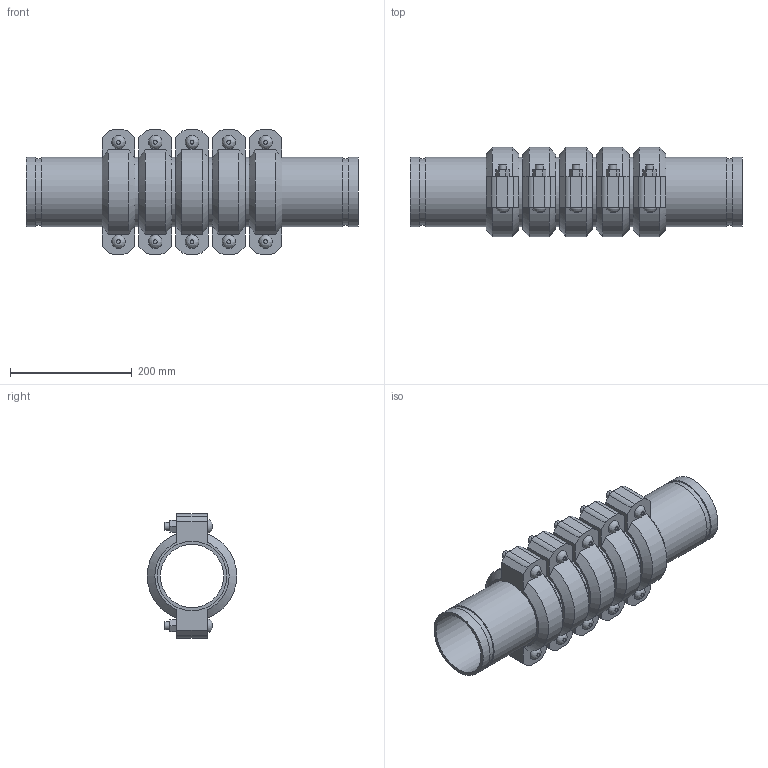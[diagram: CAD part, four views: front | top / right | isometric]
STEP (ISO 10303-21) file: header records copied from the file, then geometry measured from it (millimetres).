
FILE_DESCRIPTION(/* description */ ('VIC SS EXPANSION JOINT 5 COUPLINGS COMPRESSED STYLE 155P (OGS) (POTABLE WATER) ','CAx-IF Rec.Pracs.---Representation and Presentation of Product Manufacturing Information (PMI)---4.0---2014-10-13'),/* implementation_level */ '2;1');
FILE_NAME(/* name */ 'C:\Users\kkamble\AppData\Roaming\Autodesk\ApplicationPlugins\Victaulic.Temp\A410\Victaulic_SS_Expansion Joint_Compressed_5 Couplings_Style 155P (OGS)-Potable Water_5 Coup_Comp_4 (100).stp',/* time_stamp */ '2021-07-16T17:13:25+06:00',/* author */ ('kkamble'),/* organization */ ('Victaulic'),/* preprocessor_version */ 'ST-DEVELOPER v17.2',/* originating_system */ 'Autodesk Inventor 2019',/* authorisation */ '');
FILE_SCHEMA (('AP242_MANAGED_MODEL_BASED_3D_ENGINEERING_MIM_LF { 1 0 10303 442 1 1 4 }'));
Length unit declared in the file: inch
Products named in the file (4): 155P-04.0; Nipple-04.0; Nipple-04.0_1; 075-04.0
Assembly tree (11 placements, depth 2):
  155P-04.0
    Nipple-04.0  x2
    Nipple-04.0_1  x4
    075-04.0  x5
Bounding box: 545.85 x 147.32 x 203.96 mm (x, y, z)
Volume: 3278689 mm3; surface area: 790977.4 mm2
Topology: 11 solids, 21 shells, 337 faces, 815 edges, 574 vertices
Faces by surface type: plane 206, cylinder 101, cone 20, bspline 10
Full cylindrical faces by diameter (mm): 12.7 x20, 14.605 x10, 103.988 x6, 110.084 x12, 114.3 x23
Entity records: 2689 total; most frequent: CARTESIAN_POINT 481, DIRECTION 447, ORIENTED_EDGE 374, EDGE_CURVE 187, AXIS2_PLACEMENT_3D 178, VERTEX_POINT 134, EDGE_LOOP 101, LINE 91
